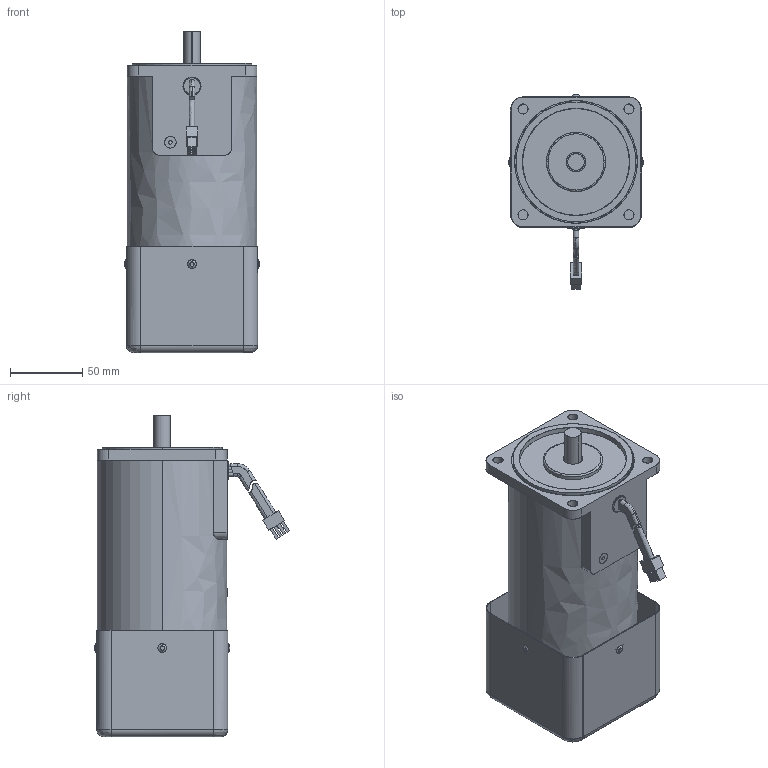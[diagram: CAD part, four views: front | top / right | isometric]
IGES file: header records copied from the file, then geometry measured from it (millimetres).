
Start section: SolidWorks IGES file using analytic representation for surfaces
Global section: file name: \\楷备家烹钦辑滚\data (D)\档搁 枚\权其捞瘤 档搁\7. SPEED INDUCTION\90\180W\(7-120) 9SDG∴-180F2H.IGS; native system: SolidWorks 2007; preprocessor: SolidWorks 2007; author: user; date: 150709.100406; units: millimetre
Bounding box: 94 x 135.4 x 223 mm (x, y, z)
Surface area: 190225.2 mm2 (no closed solid volume)
Topology: 0 solids, 0 shells, 394 faces, 6994 edges, 6994 vertices
Faces by surface type: revolution 238, bspline 156
